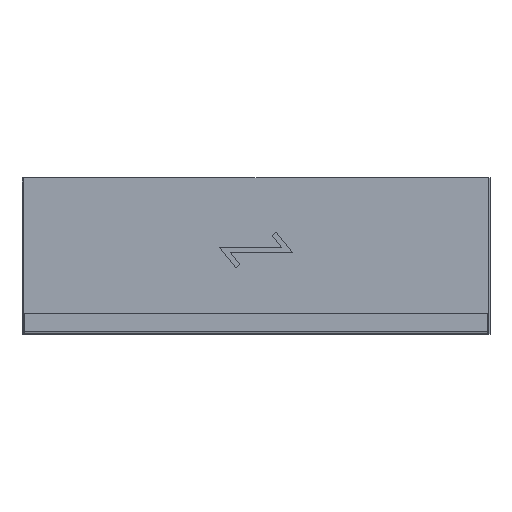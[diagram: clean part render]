
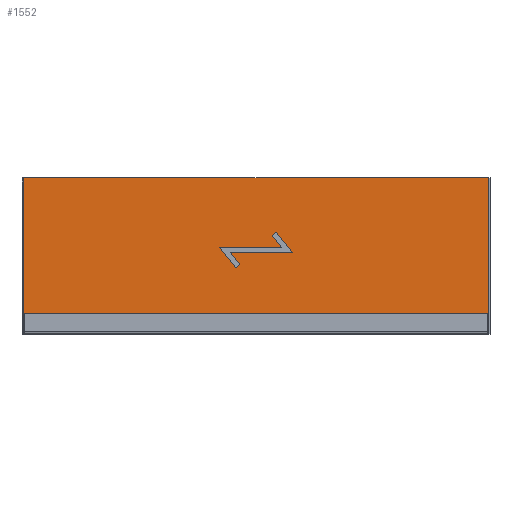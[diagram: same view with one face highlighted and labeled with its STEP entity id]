
A CAD part, top view. The second image highlights one B-rep face of the part: STEP entity #1552.
In plain terms, the highlighted planar face has unit normal (0, 0, 1) as drawn and (0, 1, 0) by its records, which use the part's own axes.
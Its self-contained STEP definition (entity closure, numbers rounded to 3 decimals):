
#6 = CARTESIAN_POINT ( 'NONE',  ( -138.5, 25., -447. ) ) ;
#25 = DIRECTION ( 'NONE',  ( -0.781, 0., 0.625 ) ) ;
#33 = VECTOR ( 'NONE', #964, 1000. ) ;
#36 = DIRECTION ( 'NONE',  ( 0., 0., -1. ) ) ;
#37 = ORIENTED_EDGE ( 'NONE', *, *, #1911, .T. ) ;
#43 = CARTESIAN_POINT ( 'NONE',  ( -3.125, 25., -63.903 ) ) ;
#49 = CARTESIAN_POINT ( 'NONE',  ( 3.125, 25., -56.097 ) ) ;
#54 = CARTESIAN_POINT ( 'NONE',  ( 5., 25., -70.408 ) ) ;
#56 = VERTEX_POINT ( 'NONE', #1537 ) ;
#67 = CARTESIAN_POINT ( 'NONE',  ( 3.125, 25., 63.903 ) ) ;
#141 = CARTESIAN_POINT ( 'NONE',  ( -5., 25., 70.408 ) ) ;
#153 = EDGE_LOOP ( 'NONE', ( #309, #187, #1246, #1396, #1458, #1376, #206, #716 ) ) ;
#157 = EDGE_CURVE ( 'NONE', #334, #260, #1608, .T. ) ;
#158 = DIRECTION ( 'NONE',  ( -1., 0., 0. ) ) ;
#166 = LINE ( 'NONE', #1084, #349 ) ;
#173 = VECTOR ( 'NONE', #481, 1000. ) ;
#187 = ORIENTED_EDGE ( 'NONE', *, *, #157, .F. ) ;
#205 = EDGE_CURVE ( 'NONE', #358, #334, #1888, .T. ) ;
#206 = ORIENTED_EDGE ( 'NONE', *, *, #1403, .T. ) ;
#237 = ORIENTED_EDGE ( 'NONE', *, *, #1077, .T. ) ;
#248 = PLANE ( 'NONE',  #1423 ) ;
#258 = CARTESIAN_POINT ( 'NONE',  ( -138.5, 25., 447. ) ) ;
#260 = VERTEX_POINT ( 'NONE', #489 ) ;
#285 = ORIENTED_EDGE ( 'NONE', *, *, #1107, .T. ) ;
#290 = CARTESIAN_POINT ( 'NONE',  ( -138.5, 25., -447. ) ) ;
#309 = ORIENTED_EDGE ( 'NONE', *, *, #1288, .T. ) ;
#328 = VECTOR ( 'NONE', #677, 1000. ) ;
#334 = VERTEX_POINT ( 'NONE', #1631 ) ;
#348 = LINE ( 'NONE', #1325, #33 ) ;
#349 = VECTOR ( 'NONE', #1711, 1000. ) ;
#358 = VERTEX_POINT ( 'NONE', #54 ) ;
#359 = DIRECTION ( 'NONE',  ( 0., 0., -1. ) ) ;
#365 = VECTOR ( 'NONE', #388, 1000. ) ;
#370 = LINE ( 'NONE', #49, #1526 ) ;
#388 = DIRECTION ( 'NONE',  ( 1., 0., 0. ) ) ;
#425 = DIRECTION ( 'NONE',  ( 0., 0., -1. ) ) ;
#453 = VECTOR ( 'NONE', #966, 1000. ) ;
#473 = VERTEX_POINT ( 'NONE', #1222 ) ;
#481 = DIRECTION ( 'NONE',  ( -0.781, 0., 0.625 ) ) ;
#489 = CARTESIAN_POINT ( 'NONE',  ( -28.1, 25., -31.097 ) ) ;
#504 = CARTESIAN_POINT ( 'NONE',  ( -5., 25., -49.592 ) ) ;
#510 = CARTESIAN_POINT ( 'NONE',  ( -3.125, 25., 56.097 ) ) ;
#526 = DIRECTION ( 'NONE',  ( -0.781, 0., 0.625 ) ) ;
#612 = CARTESIAN_POINT ( 'NONE',  ( -5., 25., -60. ) ) ;
#648 = VERTEX_POINT ( 'NONE', #1576 ) ;
#677 = DIRECTION ( 'NONE',  ( -0.781, 0., 0.625 ) ) ;
#716 = ORIENTED_EDGE ( 'NONE', *, *, #1763, .T. ) ;
#725 = DIRECTION ( 'NONE',  ( 0., -1., 0. ) ) ;
#748 = LINE ( 'NONE', #612, #1875 ) ;
#752 = EDGE_CURVE ( 'NONE', #858, #358, #1166, .T. ) ;
#812 = LINE ( 'NONE', #1450, #1816 ) ;
#820 = EDGE_CURVE ( 'NONE', #843, #648, #348, .T. ) ;
#827 = CARTESIAN_POINT ( 'NONE',  ( 5., 25., -60. ) ) ;
#843 = VERTEX_POINT ( 'NONE', #884 ) ;
#844 = LINE ( 'NONE', #67, #173 ) ;
#858 = VERTEX_POINT ( 'NONE', #875 ) ;
#875 = CARTESIAN_POINT ( 'NONE',  ( 5., 25., 49.592 ) ) ;
#880 = ORIENTED_EDGE ( 'NONE', *, *, #1556, .T. ) ;
#881 = FACE_OUTER_BOUND ( 'NONE', #1298, .T. ) ;
#884 = CARTESIAN_POINT ( 'NONE',  ( 34.35, 25., 38.903 ) ) ;
#941 = LINE ( 'NONE', #290, #1959 ) ;
#964 = DIRECTION ( 'NONE',  ( -0.625, 0., -0.781 ) ) ;
#966 = DIRECTION ( 'NONE',  ( 0.625, 0., 0.781 ) ) ;
#1032 = CARTESIAN_POINT ( 'NONE',  ( 0., 25., 0. ) ) ;
#1077 = EDGE_CURVE ( 'NONE', #473, #1129, #941, .T. ) ;
#1084 = CARTESIAN_POINT ( 'NONE',  ( -138.5, 25., 447. ) ) ;
#1107 = EDGE_CURVE ( 'NONE', #1129, #56, #166, .T. ) ;
#1129 = VERTEX_POINT ( 'NONE', #6 ) ;
#1166 = LINE ( 'NONE', #827, #1348 ) ;
#1198 = CARTESIAN_POINT ( 'NONE',  ( 138.5, 25., 447. ) ) ;
#1216 = VERTEX_POINT ( 'NONE', #141 ) ;
#1222 = CARTESIAN_POINT ( 'NONE',  ( 138.5, 25., -447. ) ) ;
#1246 = ORIENTED_EDGE ( 'NONE', *, *, #205, .F. ) ;
#1279 = VERTEX_POINT ( 'NONE', #504 ) ;
#1282 = CARTESIAN_POINT ( 'NONE',  ( -34.35, 25., -38.903 ) ) ;
#1288 = EDGE_CURVE ( 'NONE', #1279, #260, #370, .T. ) ;
#1298 = EDGE_LOOP ( 'NONE', ( #37, #237, #285, #880 ) ) ;
#1325 = CARTESIAN_POINT ( 'NONE',  ( 34.35, 25., 38.903 ) ) ;
#1348 = VECTOR ( 'NONE', #359, 1000. ) ;
#1376 = ORIENTED_EDGE ( 'NONE', *, *, #820, .F. ) ;
#1396 = ORIENTED_EDGE ( 'NONE', *, *, #752, .F. ) ;
#1403 = EDGE_CURVE ( 'NONE', #843, #1216, #844, .T. ) ;
#1423 = AXIS2_PLACEMENT_3D ( 'NONE', #1032, #725, #425 ) ;
#1450 = CARTESIAN_POINT ( 'NONE',  ( 138.5, 25., 447. ) ) ;
#1458 = ORIENTED_EDGE ( 'NONE', *, *, #1898, .F. ) ;
#1518 = VERTEX_POINT ( 'NONE', #1198 ) ;
#1526 = VECTOR ( 'NONE', #526, 1000. ) ;
#1537 = CARTESIAN_POINT ( 'NONE',  ( -138.5, 25., 447. ) ) ;
#1542 = VECTOR ( 'NONE', #25, 1000. ) ;
#1552 = ADVANCED_FACE ( 'NONE', ( #881, #1673 ), #248, .F. ) ;
#1556 = EDGE_CURVE ( 'NONE', #56, #1518, #1664, .T. ) ;
#1576 = CARTESIAN_POINT ( 'NONE',  ( 28.1, 25., 31.097 ) ) ;
#1600 = LINE ( 'NONE', #510, #328 ) ;
#1608 = LINE ( 'NONE', #1282, #453 ) ;
#1631 = CARTESIAN_POINT ( 'NONE',  ( -34.35, 25., -38.903 ) ) ;
#1664 = LINE ( 'NONE', #258, #365 ) ;
#1673 = FACE_BOUND ( 'NONE', #153, .T. ) ;
#1711 = DIRECTION ( 'NONE',  ( 0., 0., 1. ) ) ;
#1763 = EDGE_CURVE ( 'NONE', #1216, #1279, #748, .T. ) ;
#1816 = VECTOR ( 'NONE', #36, 1000. ) ;
#1869 = DIRECTION ( 'NONE',  ( 0., 0., -1. ) ) ;
#1875 = VECTOR ( 'NONE', #1869, 1000. ) ;
#1888 = LINE ( 'NONE', #43, #1542 ) ;
#1898 = EDGE_CURVE ( 'NONE', #648, #858, #1600, .T. ) ;
#1911 = EDGE_CURVE ( 'NONE', #1518, #473, #812, .T. ) ;
#1959 = VECTOR ( 'NONE', #158, 1000. ) ;
